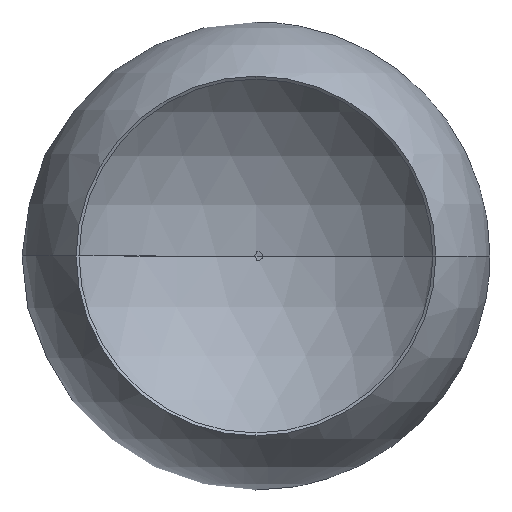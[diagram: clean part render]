
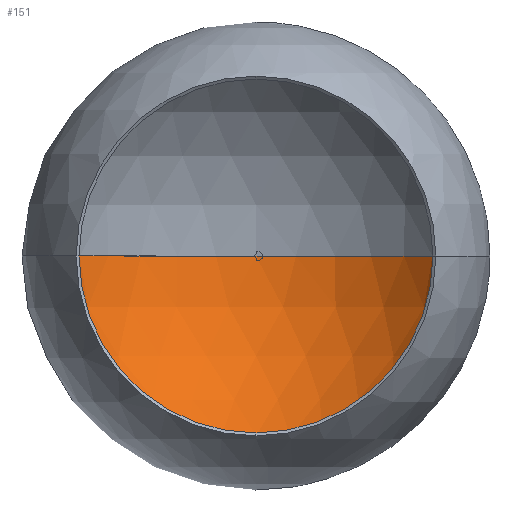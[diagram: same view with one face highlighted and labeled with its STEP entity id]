
A CAD part, front view. The second image highlights one B-rep face of the part: STEP entity #151.
In plain terms, the highlighted spherical face has radius 123 mm.
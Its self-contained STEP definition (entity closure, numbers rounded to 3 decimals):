
#28 = DIRECTION ( 'NONE',  ( 1., 0., 0. ) ) ;
#56 = CARTESIAN_POINT ( 'NONE',  ( 0., 123., 0. ) ) ;
#151 = ADVANCED_FACE ( 'NONE', ( #975 ), #677, .F. ) ;
#170 = DIRECTION ( 'NONE',  ( 0., 0., 1. ) ) ;
#171 = VERTEX_POINT ( 'NONE', #56 ) ;
#205 = ORIENTED_EDGE ( 'NONE', *, *, #602, .T. ) ;
#277 = CARTESIAN_POINT ( 'NONE',  ( 0., -78.72, 0. ) ) ;
#312 = EDGE_CURVE ( 'NONE', #171, #1218, #767, .T. ) ;
#327 = ORIENTED_EDGE ( 'NONE', *, *, #556, .T. ) ;
#409 = CARTESIAN_POINT ( 'NONE',  ( 0., -78.72, 0. ) ) ;
#424 = AXIS2_PLACEMENT_3D ( 'NONE', #465, #585, #1167 ) ;
#428 = DIRECTION ( 'NONE',  ( 0., -1., 0. ) ) ;
#441 = DIRECTION ( 'NONE',  ( 0., 0., -1. ) ) ;
#465 = CARTESIAN_POINT ( 'NONE',  ( 0., 0., 0. ) ) ;
#479 = CIRCLE ( 'NONE', #703, 94.51 ) ;
#548 = AXIS2_PLACEMENT_3D ( 'NONE', #581, #1436, #28 ) ;
#556 = EDGE_CURVE ( 'NONE', #171, #1328, #1319, .T. ) ;
#581 = CARTESIAN_POINT ( 'NONE',  ( 0., 0., 0. ) ) ;
#585 = DIRECTION ( 'NONE',  ( 0., 0., -1. ) ) ;
#602 = EDGE_CURVE ( 'NONE', #1328, #871, #479, .T. ) ;
#627 = CARTESIAN_POINT ( 'NONE',  ( 0., -78.72, -94.51 ) ) ;
#659 = CIRCLE ( 'NONE', #1105, 94.51 ) ;
#677 = SPHERICAL_SURFACE ( 'NONE', #1352, 123. ) ;
#703 = AXIS2_PLACEMENT_3D ( 'NONE', #409, #428, #441 ) ;
#767 = CIRCLE ( 'NONE', #424, 123. ) ;
#779 = EDGE_CURVE ( 'NONE', #871, #1218, #659, .T. ) ;
#865 = DIRECTION ( 'NONE',  ( 0., 0., -1. ) ) ;
#871 = VERTEX_POINT ( 'NONE', #627 ) ;
#973 = DIRECTION ( 'NONE',  ( 1., 0., 0. ) ) ;
#975 = FACE_OUTER_BOUND ( 'NONE', #1046, .T. ) ;
#978 = DIRECTION ( 'NONE',  ( 0., -1., 0. ) ) ;
#1046 = EDGE_LOOP ( 'NONE', ( #1360, #327, #205, #1233 ) ) ;
#1105 = AXIS2_PLACEMENT_3D ( 'NONE', #277, #978, #865 ) ;
#1167 = DIRECTION ( 'NONE',  ( -1., 0., 0. ) ) ;
#1218 = VERTEX_POINT ( 'NONE', #1376 ) ;
#1233 = ORIENTED_EDGE ( 'NONE', *, *, #779, .T. ) ;
#1312 = CARTESIAN_POINT ( 'NONE',  ( -94.51, -78.72, 0. ) ) ;
#1317 = CARTESIAN_POINT ( 'NONE',  ( 0., 0., 0. ) ) ;
#1319 = CIRCLE ( 'NONE', #548, 123. ) ;
#1328 = VERTEX_POINT ( 'NONE', #1312 ) ;
#1352 = AXIS2_PLACEMENT_3D ( 'NONE', #1317, #170, #973 ) ;
#1360 = ORIENTED_EDGE ( 'NONE', *, *, #312, .F. ) ;
#1376 = CARTESIAN_POINT ( 'NONE',  ( 94.51, -78.72, 0. ) ) ;
#1436 = DIRECTION ( 'NONE',  ( 0., 0., 1. ) ) ;
